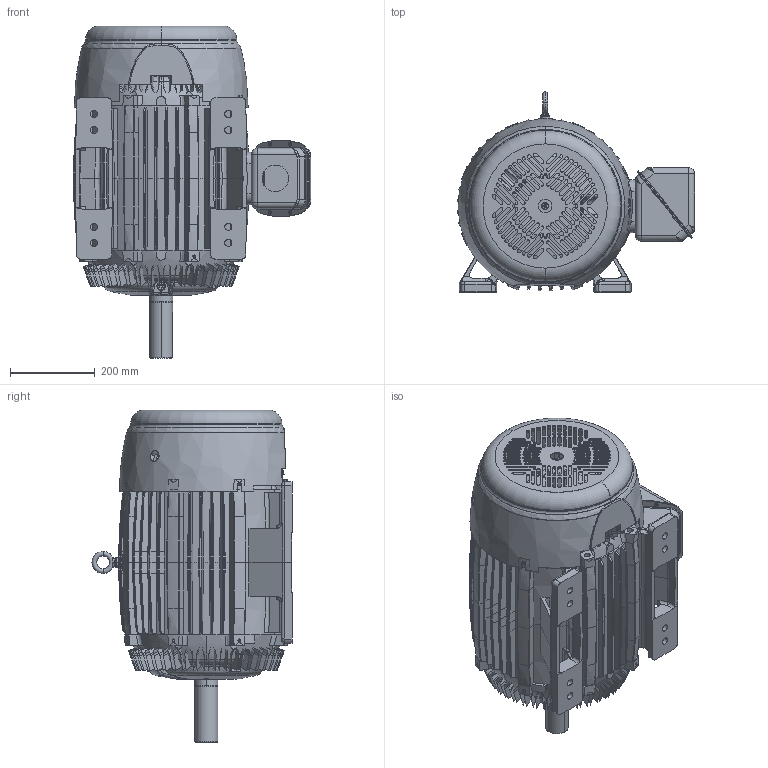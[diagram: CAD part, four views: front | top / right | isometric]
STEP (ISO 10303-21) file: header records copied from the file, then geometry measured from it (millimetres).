
FILE_DESCRIPTION((''),'2;1');
FILE_NAME('320_CTI_ASSY_ASM','2018-10-22T14:46:10',('emd2341'),('Nidec Motor Corporation'),'CREO PARAMETRIC BY PTC INC, 2018020','CREO PARAMETRIC BY PTC INC, 2018020','');
FILE_SCHEMA(('CONFIG_CONTROL_DESIGN'));
Length unit declared in the file: inch
Products named in the file (9): 0076281; 2038067; 2038024; 0133166; 0116263; 2037427; 0378793; 0378794; 320_CTI_ASSY_ASM
Assembly tree (9 placements, depth 2):
  320_CTI_ASSY_ASM
    0076281
    2038067  x2
    2038024
    0133166
    0116263
    2037427
    0378793
    0378794
Bounding box: 561.05 x 473.43 x 785.04 mm (x, y, z)
Volume: 14475715 mm3; surface area: 3715555 mm2
Topology: 11 solids, 126 shells, 3625 faces, 9479 edges, 5960 vertices
Faces by surface type: bspline 1365, plane 1037, cylinder 690, extrusion 180, cone 173, torus 166, sphere 14
Entity records: 127114 total; most frequent: CARTESIAN_POINT 63990, ORIENTED_EDGE 14598, DIRECTION 9740, EDGE_CURVE 7597, VERTEX_POINT 4765, AXIS2_PLACEMENT_3D 3399, EDGE_LOOP 3260, B_SPLINE_CURVE_WITH_KNOTS 3164
